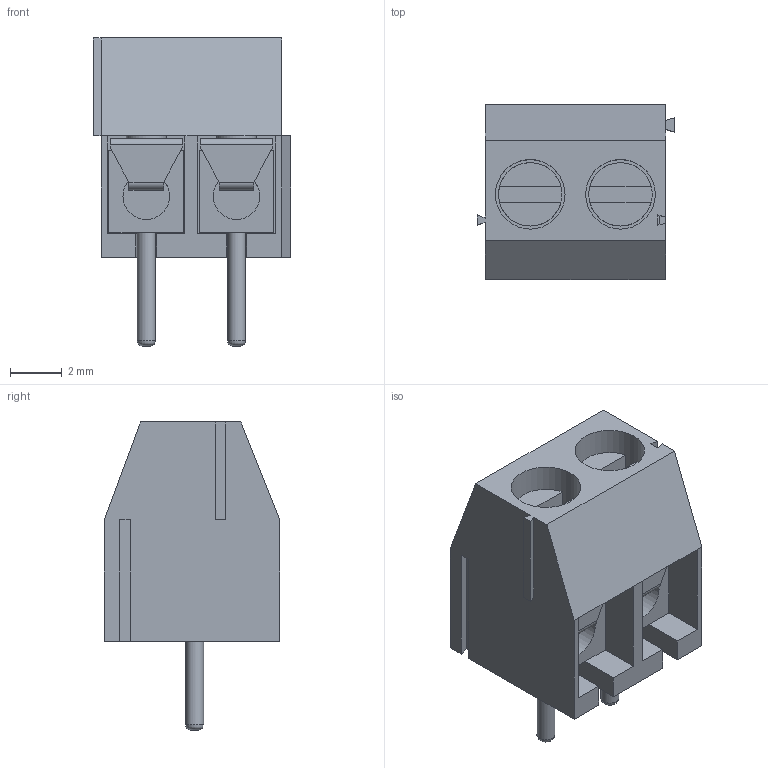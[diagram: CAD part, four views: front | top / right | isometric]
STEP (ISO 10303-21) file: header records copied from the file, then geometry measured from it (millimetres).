
FILE_DESCRIPTION(('FreeCAD Model'),'2;1');
FILE_NAME('Open CASCADE Shape Model','2026-06-19T23:03:49',(''),(''), 'Open CASCADE STEP processor 7.8','FreeCAD','Unknown');
FILE_SCHEMA(('AUTOMOTIVE_DESIGN { 1 0 10303 214 1 1 1 1 }'));
Length unit declared in the file: millimetre
Products named in the file (8): KF350_2p; Corps; Conn_1; Conn_2; blade_1; blade_2; Vis_1; Vis_001
Assembly tree (7 placements, depth 2):
  KF350_2p
    Corps
    Conn_1
    Conn_2
    blade_1
    blade_2
    Vis_1
    Vis_001
Bounding box: 7.65 x 6.8 x 11.95 mm (x, y, z)
Volume: 262.3 mm3; surface area: 819.8 mm2
Topology: 7 solids, 7 shells, 126 faces, 308 edges, 196 vertices
Faces by surface type: plane 98, cylinder 24, revolution 2, cone 2
Full cylindrical faces by diameter (mm): 0.7 x2, 1.542 x2, 1.6 x2, 1.808 x2, 1.915 x2, 2.459 x2, 2.7 x2
Entity records: 4105 total; most frequent: CARTESIAN_POINT 872, DIRECTION 628, ORIENTED_EDGE 616, EDGE_CURVE 308, LINE 246, VECTOR 246, VERTEX_POINT 196, AXIS2_PLACEMENT_3D 190
